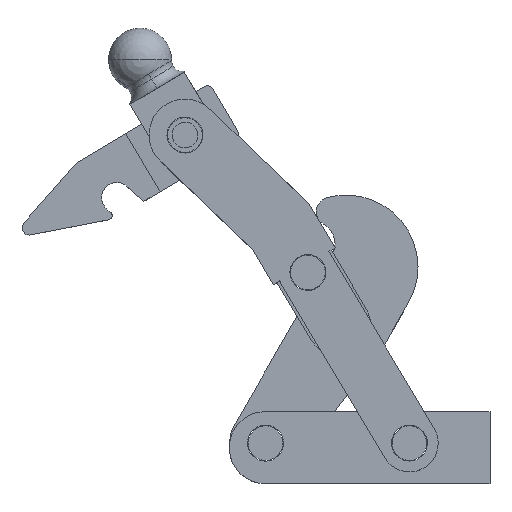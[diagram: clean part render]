
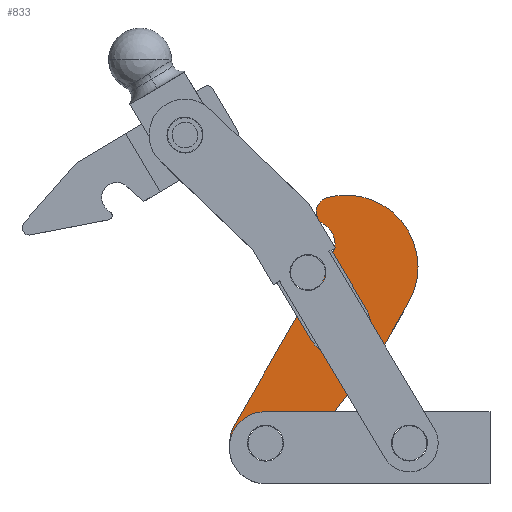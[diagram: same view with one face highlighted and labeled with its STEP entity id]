
A CAD part, top view. The second image highlights one B-rep face of the part: STEP entity #833.
In plain terms, the highlighted planar face has unit normal (0, 0, 1).
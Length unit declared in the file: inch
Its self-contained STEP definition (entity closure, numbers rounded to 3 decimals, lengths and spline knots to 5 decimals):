
#833 = ADVANCED_FACE( '', ( #1201, #1202, #1203 ), #1204, .T. );
#1201 = FACE_OUTER_BOUND( '', #1668, .T. );
#1202 = FACE_BOUND( '', #1669, .T. );
#1203 = FACE_BOUND( '', #1670, .T. );
#1204 = PLANE( '', #1671 );
#1668 = EDGE_LOOP( '', ( #3011, #3012, #3013, #3014, #3015, #3016, #3017, #3018, #3019 ) );
#1669 = EDGE_LOOP( '', ( #3020, #3021, #3022 ) );
#1670 = EDGE_LOOP( '', ( #3023, #3024, #3025 ) );
#1671 = AXIS2_PLACEMENT_3D( '', #3026, #3027, #3028 );
#3011 = ORIENTED_EDGE( '', *, *, #4033, .T. );
#3012 = ORIENTED_EDGE( '', *, *, #4008, .T. );
#3013 = ORIENTED_EDGE( '', *, *, #4032, .T. );
#3014 = ORIENTED_EDGE( '', *, *, #4030, .T. );
#3015 = ORIENTED_EDGE( '', *, *, #4010, .T. );
#3016 = ORIENTED_EDGE( '', *, *, #4029, .T. );
#3017 = ORIENTED_EDGE( '', *, *, #4027, .T. );
#3018 = ORIENTED_EDGE( '', *, *, #4025, .T. );
#3019 = ORIENTED_EDGE( '', *, *, #4023, .T. );
#3020 = ORIENTED_EDGE( '', *, *, #4001, .F. );
#3021 = ORIENTED_EDGE( '', *, *, #4000, .F. );
#3022 = ORIENTED_EDGE( '', *, *, #4034, .F. );
#3023 = ORIENTED_EDGE( '', *, *, #3995, .F. );
#3024 = ORIENTED_EDGE( '', *, *, #3994, .F. );
#3025 = ORIENTED_EDGE( '', *, *, #4035, .F. );
#3026 = CARTESIAN_POINT( '', ( -3.12, 0.5625, 0.249 ) );
#3027 = DIRECTION( '', ( 0., 0., 1. ) );
#3028 = DIRECTION( '', ( 1., 0., 0. ) );
#3994 = EDGE_CURVE( '', #4817, #4820, #4821, .T. );
#3995 = EDGE_CURVE( '', #4820, #4822, #4823, .T. );
#4000 = EDGE_CURVE( '', #4829, #4832, #4833, .T. );
#4001 = EDGE_CURVE( '', #4832, #4834, #4835, .T. );
#4008 = EDGE_CURVE( '', #4842, #4846, #4848, .T. );
#4010 = EDGE_CURVE( '', #4852, #4849, #4853, .T. );
#4023 = EDGE_CURVE( '', #4873, #4871, #4874, .T. );
#4025 = EDGE_CURVE( '', #4876, #4873, #4877, .T. );
#4027 = EDGE_CURVE( '', #4879, #4876, #4880, .T. );
#4029 = EDGE_CURVE( '', #4849, #4879, #4882, .T. );
#4030 = EDGE_CURVE( '', #4883, #4852, #4884, .T. );
#4032 = EDGE_CURVE( '', #4846, #4883, #4886, .T. );
#4033 = EDGE_CURVE( '', #4871, #4842, #4887, .T. );
#4034 = EDGE_CURVE( '', #4834, #4829, #4888, .T. );
#4035 = EDGE_CURVE( '', #4822, #4817, #4889, .T. );
#4817 = VERTEX_POINT( '', #6041 );
#4820 = VERTEX_POINT( '', #6045 );
#4821 = CIRCLE( '', #6046, 0.30469 );
#4822 = VERTEX_POINT( '', #6047 );
#4823 = CIRCLE( '', #6048, 0.30469 );
#4829 = VERTEX_POINT( '', #6055 );
#4832 = VERTEX_POINT( '', #6059 );
#4833 = CIRCLE( '', #6060, 0.30469 );
#4834 = VERTEX_POINT( '', #6061 );
#4835 = CIRCLE( '', #6062, 0.30469 );
#4842 = VERTEX_POINT( '', #6070 );
#4846 = VERTEX_POINT( '', #6075 );
#4848 = CIRCLE( '', #6078, 0.5 );
#4849 = VERTEX_POINT( '', #6079 );
#4852 = VERTEX_POINT( '', #6083 );
#4853 = CIRCLE( '', #6084, 1. );
#4871 = VERTEX_POINT( '', #6106 );
#4873 = VERTEX_POINT( '', #6109 );
#4874 = LINE( '', #6110, #6111 );
#4876 = VERTEX_POINT( '', #6114 );
#4877 = CIRCLE( '', #6115, 0.32 );
#4879 = VERTEX_POINT( '', #6118 );
#4880 = CIRCLE( '', #6119, 0.2 );
#4882 = CIRCLE( '', #6122, 1. );
#4883 = VERTEX_POINT( '', #6123 );
#4884 = LINE( '', #6124, #6125 );
#4886 = LINE( '', #6128, #6129 );
#4887 = CIRCLE( '', #6130, 0.5 );
#4888 = CIRCLE( '', #6131, 0.30469 );
#4889 = CIRCLE( '', #6132, 0.30469 );
#6041 = CARTESIAN_POINT( '', ( -2.2538, 1.9485, 0.249 ) );
#6045 = CARTESIAN_POINT( '', ( -1.83778, 2.06075, 0.249 ) );
#6046 = AXIS2_PLACEMENT_3D( '', #7148, #7149, #7150 );
#6047 = CARTESIAN_POINT( '', ( -1.95003, 2.47677, 0.249 ) );
#6048 = AXIS2_PLACEMENT_3D( '', #7151, #7152, #7153 );
#6055 = CARTESIAN_POINT( '', ( -3.27188, 0.29837, 0.249 ) );
#6059 = CARTESIAN_POINT( '', ( -2.85587, 0.41062, 0.249 ) );
#6060 = AXIS2_PLACEMENT_3D( '', #7162, #7163, #7164 );
#6061 = CARTESIAN_POINT( '', ( -2.96812, 0.82663, 0.249 ) );
#6062 = AXIS2_PLACEMENT_3D( '', #7165, #7166, #7167 );
#6070 = CARTESIAN_POINT( '', ( -3.36924, 0.12905, 0.249 ) );
#6075 = CARTESIAN_POINT( '', ( -2.72135, 0.26071, 0.249 ) );
#6078 = AXIS2_PLACEMENT_3D( '', #7180, #7181, #7182 );
#6079 = CARTESIAN_POINT( '', ( -1.50229, 3.8773, 0.249 ) );
#6083 = CARTESIAN_POINT( '', ( -1.13388, 2.51192, 0.249 ) );
#6084 = AXIS2_PLACEMENT_3D( '', #7184, #7185, #7186 );
#6106 = CARTESIAN_POINT( '', ( -3.55345, 0.81174, 0.249 ) );
#6109 = CARTESIAN_POINT( '', ( -2.19689, 3.17086, 0.249 ) );
#6110 = CARTESIAN_POINT( '', ( -2.19689, 3.17086, 0.249 ) );
#6111 = VECTOR( '', #7213, 1. );
#6114 = CARTESIAN_POINT( '', ( -2.31479, 3.60779, 0.249 ) );
#6115 = AXIS2_PLACEMENT_3D( '', #7215, #7216, #7217 );
#6118 = CARTESIAN_POINT( '', ( -2.26867, 3.97386, 0.249 ) );
#6119 = AXIS2_PLACEMENT_3D( '', #7219, #7220, #7221 );
#6122 = AXIS2_PLACEMENT_3D( '', #7223, #7224, #7225 );
#6123 = CARTESIAN_POINT( '', ( -1.50276, 1.87041, 0.249 ) );
#6124 = CARTESIAN_POINT( '', ( -1.50276, 1.87041, 0.249 ) );
#6125 = VECTOR( '', #7226, 1. );
#6128 = CARTESIAN_POINT( '', ( -2.72135, 0.26071, 0.249 ) );
#6129 = VECTOR( '', #7228, 1. );
#6130 = AXIS2_PLACEMENT_3D( '', #7229, #7230, #7231 );
#6131 = AXIS2_PLACEMENT_3D( '', #7232, #7233, #7234 );
#6132 = AXIS2_PLACEMENT_3D( '', #7235, #7236, #7237 );
#7148 = CARTESIAN_POINT( '', ( -2.10192, 2.21264, 0.249 ) );
#7149 = DIRECTION( '', ( 0., 0., 1. ) );
#7150 = DIRECTION( '', ( 0.867, -0.498, 0. ) );
#7151 = CARTESIAN_POINT( '', ( -2.10192, 2.21264, 0.249 ) );
#7152 = DIRECTION( '', ( 0., 0., 1. ) );
#7153 = DIRECTION( '', ( 0.867, -0.498, 0. ) );
#7162 = CARTESIAN_POINT( '', ( -3.12, 0.5625, 0.249 ) );
#7163 = DIRECTION( '', ( 0., 0., 1. ) );
#7164 = DIRECTION( '', ( 0.867, -0.498, 0. ) );
#7165 = CARTESIAN_POINT( '', ( -3.12, 0.5625, 0.249 ) );
#7166 = DIRECTION( '', ( 0., 0., 1. ) );
#7167 = DIRECTION( '', ( 0.867, -0.498, 0. ) );
#7180 = CARTESIAN_POINT( '', ( -3.12, 0.5625, 0.249 ) );
#7181 = DIRECTION( '', ( 0., 0., 1. ) );
#7182 = DIRECTION( '', ( -0.867, 0.498, 0. ) );
#7184 = CARTESIAN_POINT( '', ( -2.00078, 3.01041, 0.249 ) );
#7185 = DIRECTION( '', ( 0., 0., 1. ) );
#7186 = DIRECTION( '', ( 0.867, -0.498, 0. ) );
#7213 = DIRECTION( '', ( -0.498, -0.867, 0. ) );
#7215 = CARTESIAN_POINT( '', ( -2.4743, 3.33038, 0.249 ) );
#7216 = DIRECTION( '', ( 0., 0., -1. ) );
#7217 = DIRECTION( '', ( 0.498, 0.867, 0. ) );
#7219 = CARTESIAN_POINT( '', ( -2.21509, 3.78117, 0.249 ) );
#7220 = DIRECTION( '', ( 0., 0., 1. ) );
#7221 = DIRECTION( '', ( -0.268, 0.963, 0. ) );
#7223 = CARTESIAN_POINT( '', ( -2.00078, 3.01041, 0.249 ) );
#7224 = DIRECTION( '', ( 0., 0., 1. ) );
#7225 = DIRECTION( '', ( 0.867, -0.498, 0. ) );
#7226 = DIRECTION( '', ( 0.498, 0.867, 0. ) );
#7228 = DIRECTION( '', ( 0.604, 0.797, 0. ) );
#7229 = CARTESIAN_POINT( '', ( -3.12, 0.5625, 0.249 ) );
#7230 = DIRECTION( '', ( 0., 0., 1. ) );
#7231 = DIRECTION( '', ( -0.867, 0.498, 0. ) );
#7232 = CARTESIAN_POINT( '', ( -3.12, 0.5625, 0.249 ) );
#7233 = DIRECTION( '', ( 0., 0., 1. ) );
#7234 = DIRECTION( '', ( 0.867, -0.498, 0. ) );
#7235 = CARTESIAN_POINT( '', ( -2.10192, 2.21264, 0.249 ) );
#7236 = DIRECTION( '', ( 0., 0., 1. ) );
#7237 = DIRECTION( '', ( 0.867, -0.498, 0. ) );
